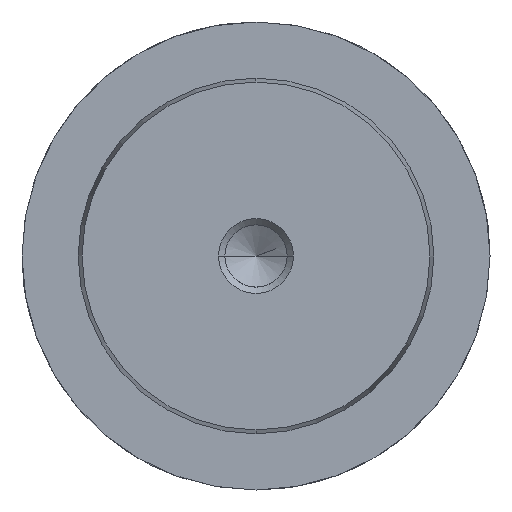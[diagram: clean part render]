
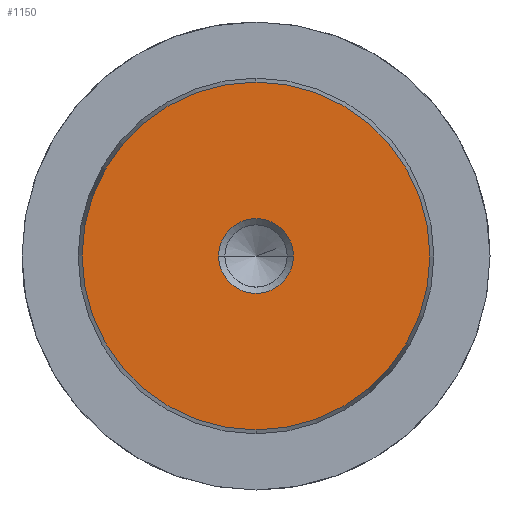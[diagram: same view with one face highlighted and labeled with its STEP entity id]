
A CAD part, left-side view. The second image highlights one B-rep face of the part: STEP entity #1150.
In plain terms, the highlighted planar face has unit normal (-1, 0, 0).
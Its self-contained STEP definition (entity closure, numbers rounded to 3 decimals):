
#1064=CARTESIAN_POINT('Vertex',(0.,0.,-18.578)) ;
#1067=CARTESIAN_POINT('Axis2P3D Location',(0.,0.,0.)) ;
#1071=CARTESIAN_POINT('Vertex',(0.,18.578,0.)) ;
#1074=CARTESIAN_POINT('Axis2P3D Location',(0.,0.,0.)) ;
#1078=CARTESIAN_POINT('Vertex',(0.,0.,18.578)) ;
#1100=CARTESIAN_POINT('Axis2P3D Location',(0.,0.,0.)) ;
#1104=CARTESIAN_POINT('Vertex',(0.,-18.578,0.)) ;
#1107=CARTESIAN_POINT('Axis2P3D Location',(0.,0.,0.)) ;
#1121=CARTESIAN_POINT('Axis2P3D Location',(0.,0.,0.)) ;
#1132=CARTESIAN_POINT('Axis2P3D Location',(0.,0.,0.)) ;
#1136=CARTESIAN_POINT('Vertex',(0.,4.,0.)) ;
#1138=CARTESIAN_POINT('Vertex',(0.,-4.,0.)) ;
#1141=CARTESIAN_POINT('Axis2P3D Location',(0.,0.,0.)) ;
#1068=DIRECTION('Axis2P3D Direction',(1.,0.,-0.)) ;
#1075=DIRECTION('Axis2P3D Direction',(1.,0.,-0.)) ;
#1101=DIRECTION('Axis2P3D Direction',(1.,0.,-0.)) ;
#1108=DIRECTION('Axis2P3D Direction',(1.,0.,-0.)) ;
#1122=DIRECTION('Axis2P3D Direction',(1.,0.,-0.)) ;
#1123=DIRECTION('Axis2P3D XDirection',(-0.,0.,-1.)) ;
#1133=DIRECTION('Axis2P3D Direction',(1.,0.,-0.)) ;
#1142=DIRECTION('Axis2P3D Direction',(1.,0.,-0.)) ;
#1069=AXIS2_PLACEMENT_3D('Circle Axis2P3D',#1067,#1068,$) ;
#1076=AXIS2_PLACEMENT_3D('Circle Axis2P3D',#1074,#1075,$) ;
#1102=AXIS2_PLACEMENT_3D('Circle Axis2P3D',#1100,#1101,$) ;
#1109=AXIS2_PLACEMENT_3D('Circle Axis2P3D',#1107,#1108,$) ;
#1124=AXIS2_PLACEMENT_3D('Plane Axis2P3D',#1121,#1122,#1123) ;
#1134=AXIS2_PLACEMENT_3D('Circle Axis2P3D',#1132,#1133,$) ;
#1143=AXIS2_PLACEMENT_3D('Circle Axis2P3D',#1141,#1142,$) ;
#1127=ORIENTED_EDGE('',*,*,#1073,.F.) ;
#1128=ORIENTED_EDGE('',*,*,#1111,.F.) ;
#1129=ORIENTED_EDGE('',*,*,#1106,.F.) ;
#1130=ORIENTED_EDGE('',*,*,#1080,.F.) ;
#1147=ORIENTED_EDGE('',*,*,#1140,.T.) ;
#1148=ORIENTED_EDGE('',*,*,#1145,.T.) ;
#1149=FACE_BOUND('',#1146,.T.) ;
#1150=ADVANCED_FACE('718-38x355',(#1131,#1149),#1125,.F.) ;
#1070=CIRCLE('generated circle',#1069,18.578) ;
#1077=CIRCLE('generated circle',#1076,18.578) ;
#1103=CIRCLE('generated circle',#1102,18.578) ;
#1110=CIRCLE('generated circle',#1109,18.578) ;
#1135=CIRCLE('generated circle',#1134,4.) ;
#1144=CIRCLE('generated circle',#1143,4.) ;
#1073=EDGE_CURVE('',#1065,#1072,#1070,.T.) ;
#1080=EDGE_CURVE('',#1072,#1079,#1077,.T.) ;
#1106=EDGE_CURVE('',#1079,#1105,#1103,.T.) ;
#1111=EDGE_CURVE('',#1105,#1065,#1110,.T.) ;
#1140=EDGE_CURVE('',#1137,#1139,#1135,.T.) ;
#1145=EDGE_CURVE('',#1139,#1137,#1144,.T.) ;
#1126=EDGE_LOOP('',(#1127,#1128,#1129,#1130)) ;
#1146=EDGE_LOOP('',(#1147,#1148)) ;
#1131=FACE_OUTER_BOUND('',#1126,.T.) ;
#1125=PLANE('Plane',#1124) ;
#1065=VERTEX_POINT('',#1064) ;
#1072=VERTEX_POINT('',#1071) ;
#1079=VERTEX_POINT('',#1078) ;
#1105=VERTEX_POINT('',#1104) ;
#1137=VERTEX_POINT('',#1136) ;
#1139=VERTEX_POINT('',#1138) ;
